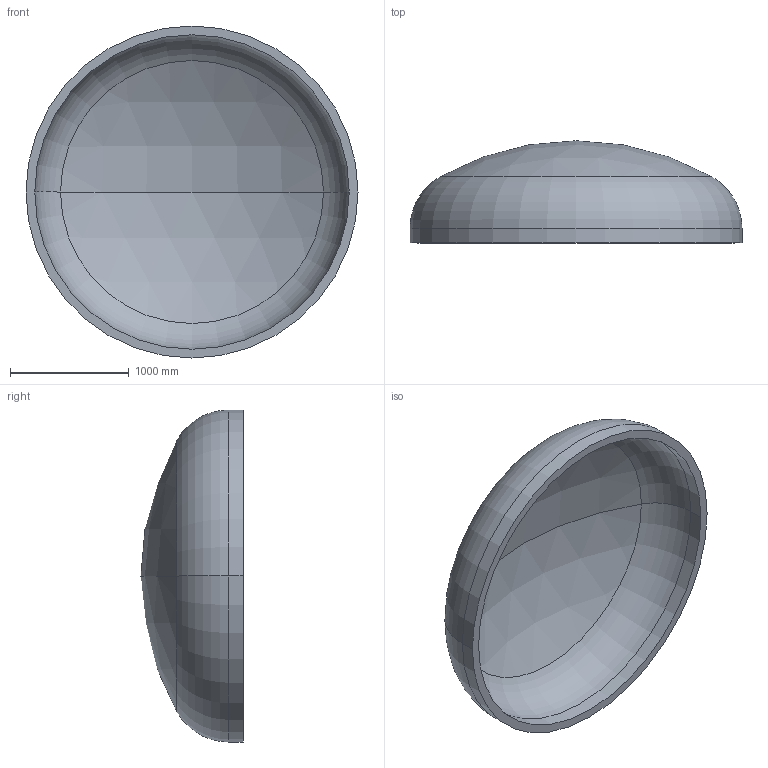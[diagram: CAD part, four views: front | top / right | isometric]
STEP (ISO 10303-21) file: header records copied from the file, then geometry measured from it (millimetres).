
FILE_DESCRIPTION (( 'STEP AP203' ), '1' );
FILE_NAME ('DIN 28013 Korbbogenform_-_Boden DIN 28013 - 2800 x 120 - I - s=74.step', '2016-07-01T17:10:29', ( '' ), ( '' ), 'SwSTEP 2.0', 'SolidWorks 2013', '' );
FILE_SCHEMA (( 'CONFIG_CONTROL_DESIGN' ));
Length unit declared in the file: millimetre
Products named in the file (1): DIN 28013 Korbbogenform_-_Boden DIN 28013 - 2800 x 120 - I - s=74
Bounding box: 2800 x 861.33 x 2800 mm (x, y, z)
Volume: 685309281.2 mm3; surface area: 19167070 mm2
Topology: 1 solids, 1 shells, 13 faces, 24 edges, 14 vertices
Faces by surface type: torus 4, cylinder 4, sphere 4, plane 1
Entity records: 407 total; most frequent: DIRECTION 72, CARTESIAN_POINT 52, ORIENTED_EDGE 48, AXIS2_PLACEMENT_3D 34, EDGE_CURVE 24, CIRCLE 20, EDGE_LOOP 14, VERTEX_POINT 14
